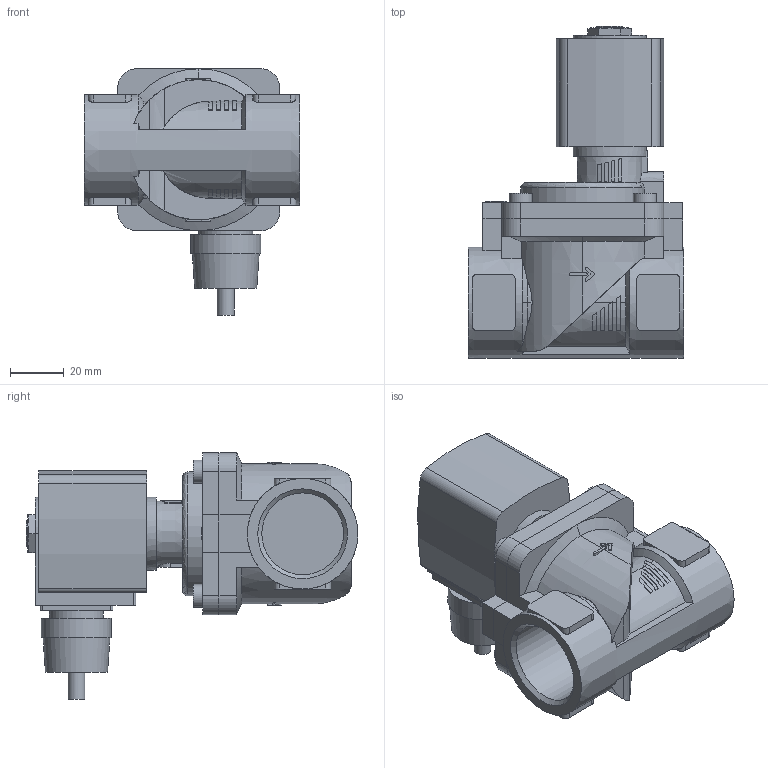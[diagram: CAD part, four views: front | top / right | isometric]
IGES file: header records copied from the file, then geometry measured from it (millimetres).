
Start section: Data from Parasolid IGES Translator 26.0.171, Copyright(c) 2006 Siemens PLM Software. All Rights Reserved.
Global section: file name: 6281-388106-2_2-Way_Solenoid_Valve__Servo-assisted__General_Purpose.igs; native system: By Siemens PLM Incorporated; preprocessor: XPlus GENERIC/IGES 26.0.171; author: Noname; organization: Noname; date: 20240820.214737; units: millimetre
Bounding box: 80 x 123 x 91.3 mm (x, y, z)
Surface area: 49778.2 mm2 (no closed solid volume)
Topology: 0 solids, 0 shells, 320 faces, 1668 edges, 1653 vertices
Faces by surface type: extrusion 191, revolution 129
